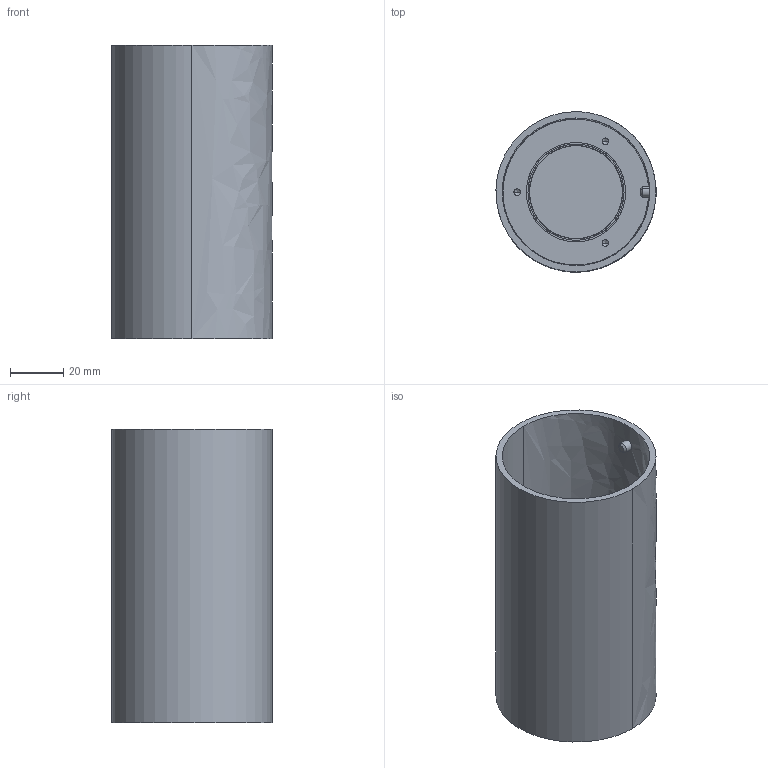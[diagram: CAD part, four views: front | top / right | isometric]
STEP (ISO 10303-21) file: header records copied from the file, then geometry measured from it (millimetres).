
FILE_DESCRIPTION(/* description */ (''),/* implementation_level */ '2;1');
FILE_NAME(/* name */ 'P127__.006',/* time_stamp */ '2024-06-18T14:41:07+02:00',/* author */ (''),/* organization */ (''),/* preprocessor_version */ 'ST-DEVELOPER v16.5',/* originating_system */ '',/* authorisation */ '');
FILE_SCHEMA (('AUTOMOTIVE_DESIGN'));
Length unit declared in the file: millimetre
Products named in the file (9): Document; socket set screw flat point_iso_ISO 4026 - M4 x 6-N; Blocco 04; 3100.0107000.00 (schermo circolare PC sp 0,2)_3101.0107006.98; Blocco 14; 3100.0106000.00 (lente semisferica PC)_3100.0106006.00; Blocco 12; 3300.0487000.00 (testata di chiusura cilindrica ALL con filetto ester
no)_3307.0487006.00; Blocco 01
Assembly tree (8 placements, depth 3):
  Document
    socket set screw flat point_iso_ISO 4026 - M4 x 6-N
      Blocco 04
    3100.0107000.00 (schermo circolare PC sp 0,2)_3101.0107006.98
      Blocco 14
    3100.0106000.00 (lente semisferica PC)_3100.0106006.00
      Blocco 12
    3300.0487000.00 (testata di chiusura cilindrica ALL con filetto ester
no)_3307.0487006.00
      Blocco 01
Bounding box: 59.99 x 60 x 110 mm (x, y, z)
Volume: 77731.9 mm3; surface area: 70803.4 mm2
Topology: 4 solids, 72 shells, 131 faces, 450 edges, 386 vertices
Faces by surface type: bspline 98, plane 33
Entity records: 7933 total; most frequent: CARTESIAN_POINT 5355, ORIENTED_EDGE 572, EDGE_CURVE 434, VERTEX_POINT 386, B_SPLINE_CURVE_WITH_KNOTS 198, EDGE_LOOP 154, ADVANCED_FACE 131, FACE_OUTER_BOUND 131
